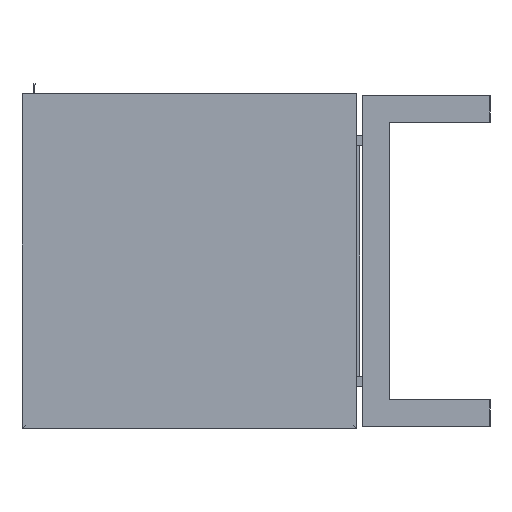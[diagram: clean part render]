
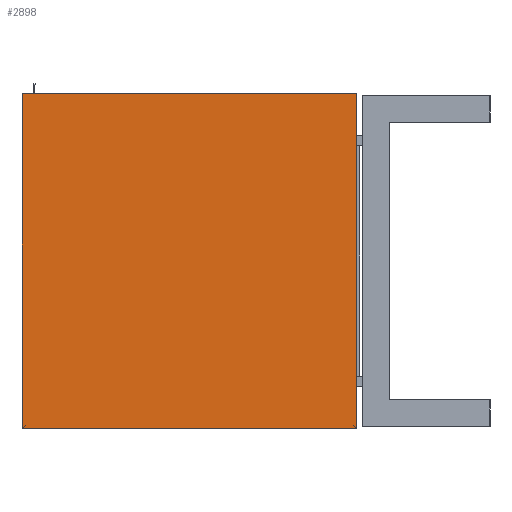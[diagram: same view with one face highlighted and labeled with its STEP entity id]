
A CAD part, left-side view. The second image highlights one B-rep face of the part: STEP entity #2898.
In plain terms, the highlighted planar face has unit normal (-1, 0, 0).
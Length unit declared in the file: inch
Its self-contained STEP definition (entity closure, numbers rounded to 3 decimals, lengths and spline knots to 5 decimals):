
#614=FACE_OUTER_BOUND('',#749,.T.);
#749=EDGE_LOOP('',(#2107,#2108,#2109,#2110));
#890=LINE('',#4010,#1212);
#894=LINE('',#4019,#1216);
#897=LINE('',#4024,#1219);
#898=LINE('',#4026,#1220);
#1212=VECTOR('',#3353,0.3937);
#1216=VECTOR('',#3361,0.3937);
#1219=VECTOR('',#3366,0.3937);
#1220=VECTOR('',#3369,0.3937);
#1531=VERTEX_POINT('',#4003);
#1534=VERTEX_POINT('',#4008);
#1537=VERTEX_POINT('',#4018);
#1538=VERTEX_POINT('',#4022);
#1756=EDGE_CURVE('',#1531,#1534,#890,.T.);
#1760=EDGE_CURVE('',#1531,#1537,#894,.T.);
#1763=EDGE_CURVE('',#1534,#1538,#897,.T.);
#1764=EDGE_CURVE('',#1537,#1538,#898,.T.);
#2107=ORIENTED_EDGE('',*,*,#1756,.T.);
#2108=ORIENTED_EDGE('',*,*,#1763,.T.);
#2109=ORIENTED_EDGE('',*,*,#1764,.F.);
#2110=ORIENTED_EDGE('',*,*,#1760,.F.);
#2771=PLANE('',#3183);
#2898=ADVANCED_FACE('',(#614),#2771,.T.);
#3183=AXIS2_PLACEMENT_3D('',#4025,#3367,#3368);
#3353=DIRECTION('',(0.,-1.,0.));
#3361=DIRECTION('',(0.,0.,1.));
#3366=DIRECTION('',(0.,0.,1.));
#3367=DIRECTION('center_axis',(-1.,0.,0.));
#3368=DIRECTION('ref_axis',(0.,-1.,0.));
#3369=DIRECTION('',(0.,-1.,0.));
#4003=CARTESIAN_POINT('',(0.,25.,0.));
#4008=CARTESIAN_POINT('',(0.,0.,0.));
#4010=CARTESIAN_POINT('',(0.,25.,0.));
#4018=CARTESIAN_POINT('',(0.,25.,25.));
#4019=CARTESIAN_POINT('',(0.,25.,0.));
#4022=CARTESIAN_POINT('',(0.,0.,25.));
#4024=CARTESIAN_POINT('',(0.,0.,0.));
#4025=CARTESIAN_POINT('Origin',(0.,25.,0.));
#4026=CARTESIAN_POINT('',(0.,25.,25.));
